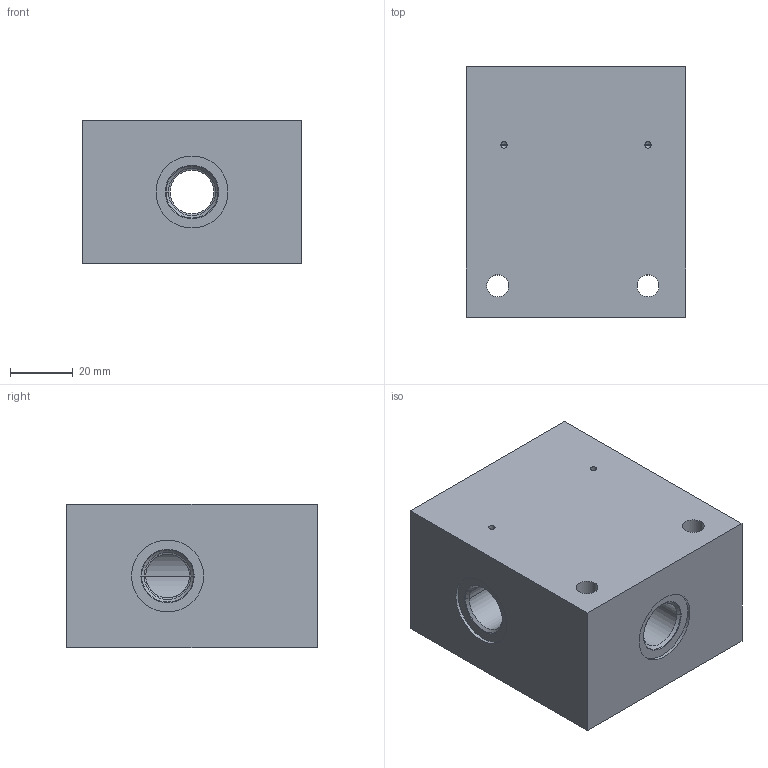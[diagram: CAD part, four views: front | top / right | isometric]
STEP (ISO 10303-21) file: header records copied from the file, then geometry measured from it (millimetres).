
FILE_DESCRIPTION((''),'2;1');
FILE_NAME('1000058423','2023-10-11T',('l.soukupova'),(''),'PRO/ENGINEER BY PARAMETRIC TECHNOLOGY CORPORATION, 2015440','PRO/ENGINEER BY PARAMETRIC TECHNOLOGY CORPORATION, 2015440','');
FILE_SCHEMA(('AUTOMOTIVE_DESIGN { 1 0 10303 214 1 1 1 1 }'));
Length unit declared in the file: millimetre
Products named in the file (1): 1000058423
Bounding box: 70 x 80 x 46 mm (x, y, z)
Volume: 226432.1 mm3; surface area: 35225.9 mm2
Topology: 1 solids, 5 shells, 82 faces, 314 edges, 274 vertices
Faces by surface type: cylinder 42, cone 26, plane 14
Entity records: 4424 total; most frequent: CARTESIAN_POINT 707, DIRECTION 590, ORIENTED_EDGE 352, PRESENTATION_STYLE_ASSIGNMENT 342, STYLED_ITEM 342, CURVE_STYLE 337, VECTOR 204, LINE 204
